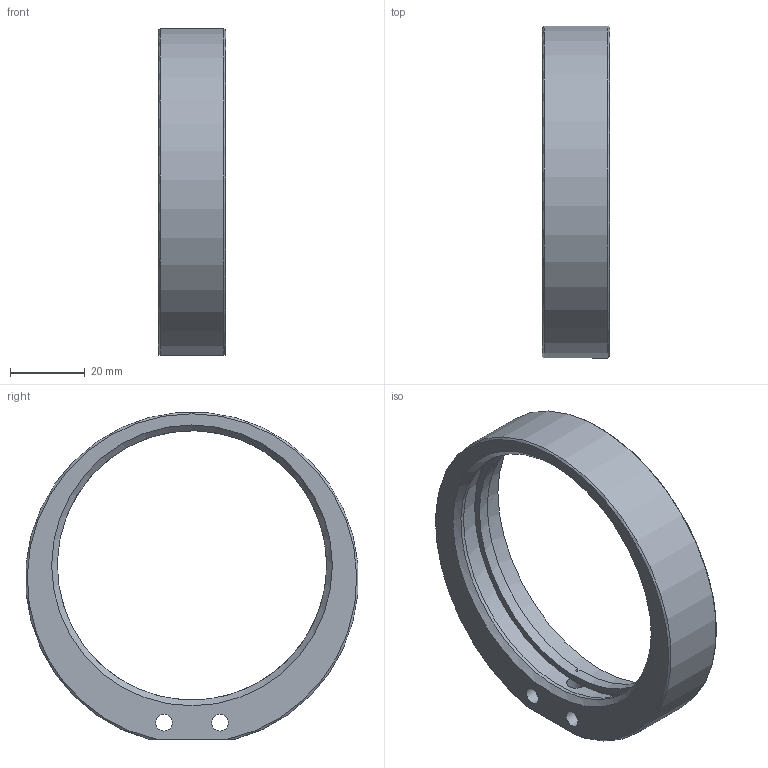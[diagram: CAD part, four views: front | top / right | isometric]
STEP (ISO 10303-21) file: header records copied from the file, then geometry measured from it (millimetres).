
FILE_DESCRIPTION(/* description */ (''),/* implementation_level */ '2;1');
FILE_NAME(/* name */ 'U:\KONSTRUKTORIAI\DOKUMENTACIJA\4\4OCM\4OCM-75\step\4OCM-75.stp',/* time_stamp */ '2016-11-21T14:43:33+02:00',/* author */ ('dsgn33'),/* organization */ (''),/* preprocessor_version */ 'ST-DEVELOPER v15.2',/* originating_system */ 'Autodesk Inventor 2014',/* authorisation */ '');
FILE_SCHEMA (('AUTOMOTIVE_DESIGN { 1 0 10303 214 3 1 1 }'));
Length unit declared in the file: millimetre
Products named in the file (2): Part2; Assembly1
Bounding box: 18 x 88.67 x 87.33 mm (x, y, z)
Volume: 29359.5 mm3; surface area: 16090 mm2
Topology: 1 solids, 1 shells, 34 faces, 88 edges, 58 vertices
Faces by surface type: plane 16, cylinder 12, cone 6
Full cylindrical faces by diameter (mm): 4.5 x2, 4.917 x1, 72 x2, 75.5 x2, 77 x2, 78.92 x1
Entity records: 1019 total; most frequent: CARTESIAN_POINT 210, DIRECTION 169, ORIENTED_EDGE 138, AXIS2_PLACEMENT_3D 72, EDGE_CURVE 69, EDGE_LOOP 58, VERTEX_POINT 51, CIRCLE 35
